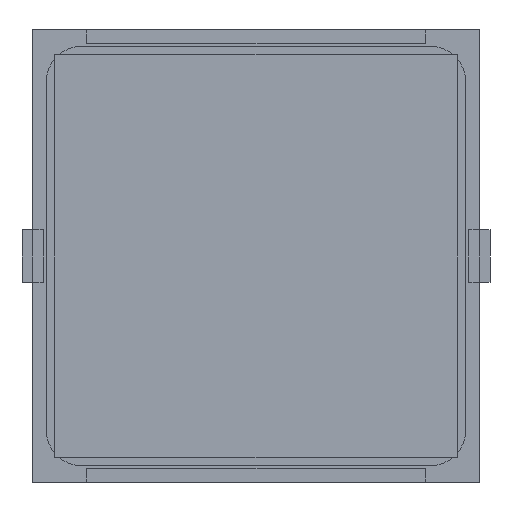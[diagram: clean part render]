
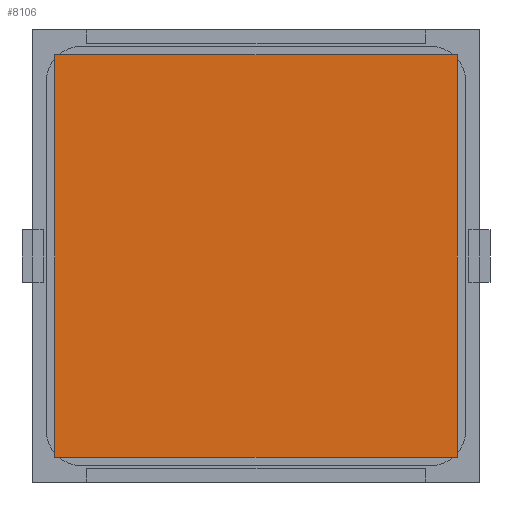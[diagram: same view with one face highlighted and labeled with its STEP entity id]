
A CAD part, front view. The second image highlights one B-rep face of the part: STEP entity #8106.
In plain terms, the highlighted planar face has unit normal (0, -1, 0).
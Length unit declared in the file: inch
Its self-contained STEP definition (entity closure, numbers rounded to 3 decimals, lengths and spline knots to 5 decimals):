
#301 = VECTOR ( 'NONE', #10355, 39.37008 ) ;
#803 = VECTOR ( 'NONE', #9004, 39.37008 ) ;
#1284 = PLANE ( 'NONE',  #7815 ) ;
#1434 = EDGE_CURVE ( 'NONE', #7832, #8374, #3890, .T. ) ;
#1517 = ORIENTED_EDGE ( 'NONE', *, *, #2805, .F. ) ;
#1561 = VERTEX_POINT ( 'NONE', #7239 ) ;
#2805 = EDGE_CURVE ( 'NONE', #2956, #1561, #3633, .T. ) ;
#2823 = CARTESIAN_POINT ( 'NONE',  ( 0.74803, -0.005, 0.74803 ) ) ;
#2956 = VERTEX_POINT ( 'NONE', #10511 ) ;
#3082 = FACE_OUTER_BOUND ( 'NONE', #6942, .T. ) ;
#3329 = CARTESIAN_POINT ( 'NONE',  ( 0.74803, -0.005, -0.74803 ) ) ;
#3538 = CARTESIAN_POINT ( 'NONE',  ( -0.74803, -0.005, -0.74803 ) ) ;
#3633 = LINE ( 'NONE', #11814, #803 ) ;
#3890 = LINE ( 'NONE', #6669, #301 ) ;
#4098 = DIRECTION ( 'NONE',  ( 0., 1., 0. ) ) ;
#4480 = VECTOR ( 'NONE', #5352, 39.37008 ) ;
#5352 = DIRECTION ( 'NONE',  ( 0., 0., 1. ) ) ;
#6669 = CARTESIAN_POINT ( 'NONE',  ( -0.74803, -0.005, 0.74803 ) ) ;
#6942 = EDGE_LOOP ( 'NONE', ( #10282, #1517, #10327, #8147 ) ) ;
#7211 = LINE ( 'NONE', #3538, #4480 ) ;
#7239 = CARTESIAN_POINT ( 'NONE',  ( -0.74803, -0.005, -0.74803 ) ) ;
#7610 = EDGE_CURVE ( 'NONE', #1561, #7832, #7211, .T. ) ;
#7815 = AXIS2_PLACEMENT_3D ( 'NONE', #8700, #4098, #9546 ) ;
#7832 = VERTEX_POINT ( 'NONE', #8717 ) ;
#8106 = ADVANCED_FACE ( 'NONE', ( #3082 ), #1284, .F. ) ;
#8147 = ORIENTED_EDGE ( 'NONE', *, *, #1434, .F. ) ;
#8308 = VECTOR ( 'NONE', #9728, 39.37008 ) ;
#8374 = VERTEX_POINT ( 'NONE', #2823 ) ;
#8700 = CARTESIAN_POINT ( 'NONE',  ( -0.74803, -0.005, 0.74803 ) ) ;
#8717 = CARTESIAN_POINT ( 'NONE',  ( -0.74803, -0.005, 0.74803 ) ) ;
#9004 = DIRECTION ( 'NONE',  ( -1., 0., 0. ) ) ;
#9546 = DIRECTION ( 'NONE',  ( 0., 0., 1. ) ) ;
#9728 = DIRECTION ( 'NONE',  ( 0., 0., -1. ) ) ;
#10282 = ORIENTED_EDGE ( 'NONE', *, *, #7610, .F. ) ;
#10327 = ORIENTED_EDGE ( 'NONE', *, *, #10417, .F. ) ;
#10355 = DIRECTION ( 'NONE',  ( 1., 0., 0. ) ) ;
#10417 = EDGE_CURVE ( 'NONE', #8374, #2956, #10702, .T. ) ;
#10511 = CARTESIAN_POINT ( 'NONE',  ( 0.74803, -0.005, -0.74803 ) ) ;
#10702 = LINE ( 'NONE', #3329, #8308 ) ;
#11814 = CARTESIAN_POINT ( 'NONE',  ( -0.74803, -0.005, -0.74803 ) ) ;
